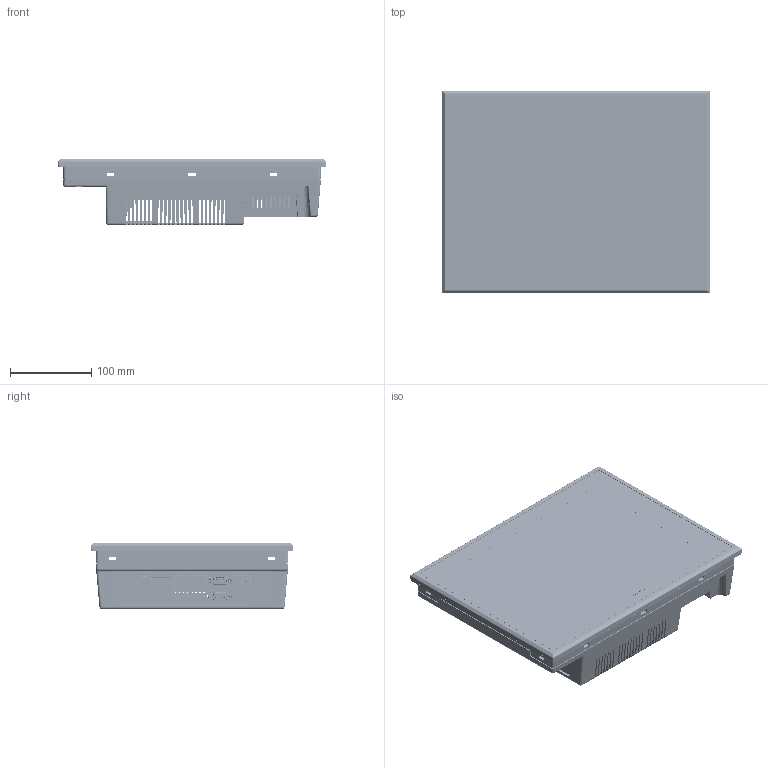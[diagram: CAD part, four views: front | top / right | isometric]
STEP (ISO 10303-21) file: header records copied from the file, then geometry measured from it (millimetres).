
FILE_DESCRIPTION (( 'STEP AP203' ), '1' );
FILE_NAME ('CM-eXT-12.STEP', '2025-02-07T06:55:59', ( '' ), ( '' ), 'SwSTEP 2.0', 'SolidWorks 2024', '' );
FILE_SCHEMA (( 'CONFIG_CONTROL_DESIGN' ));
Length unit declared in the file: millimetre
Products named in the file (18): CM-eXT12Front Bezel_BTC09066_AL12_A; LCD_BTC30053_G121XCE-L01; CM-eXT12Bracket IO_AL12_C_iMX6; CM-eXT12Assy_PCB_iMX6_Z2; Main Plate_BTC30469_A_0.188; CM-eXT12Bottom Case_BTC09061_12_A; CM-eXT12Frame Rubber_BTC09019_NT12; CM-eXT-12; CM-eXT12PJ-325C; CM-eXT12LCD_G121S1-L02; CM-eXT12Connector_15EDGRC_3.5_05P_BXP15081_degson_A; PSU_BTC03016; Touch_BXP05012_H3121A-NEWHW02-R_T12_A; CM-eXT12Connector_BXP15106_SD_FPS009-2405-0_YAMAICHI; CM-eXT12MUSB-05S-B-RA-2F; CM-eXT12SD card_A; CM-eXT12Connector_RU3_ZZ_0039; CM-eXT12AK_D_SUB_18P_4HD_RA_LFA_A
Assembly tree (18 placements, depth 3):
  CM-eXT-12
    CM-eXT12Front Bezel_BTC09066_AL12_A
    CM-eXT12Bottom Case_BTC09061_12_A
    CM-eXT12Frame Rubber_BTC09019_NT12
    CM-eXT12LCD_G121S1-L02
    CM-eXT12Bracket IO_AL12_C_iMX6
    Main Plate_BTC30469_A_0.188
    Touch_BXP05012_H3121A-NEWHW02-R_T12_A
    LCD_BTC30053_G121XCE-L01
    CM-eXT12Assy_PCB_iMX6_Z2
      CM-eXT12Connector_15EDGRC_3.5_05P_BXP15081_degson_A
      CM-eXT12Connector_BXP15106_SD_FPS009-2405-0_YAMAICHI
      CM-eXT12MUSB-05S-B-RA-2F
      CM-eXT12PJ-325C
      CM-eXT12SD card_A
      CM-eXT12AK_D_SUB_18P_4HD_RA_LFA_A
      CM-eXT12Connector_RU3_ZZ_0039  x2
    PSU_BTC03016
Bounding box: 329 x 249 x 81.4 mm (x, y, z)
Volume: 1044631.7 mm3; surface area: 1155968.4 mm2
Topology: 17 solids, 37 shells, 11231 faces, 32201 edges, 20622 vertices
Faces by surface type: plane 7405, cylinder 2569, cone 628, bspline 383, sphere 171, torus 75
Full cylindrical faces by diameter (mm): 1 x4
Entity records: 409190 total; most frequent: CARTESIAN_POINT 120993, ORIENTED_EDGE 63775, DIRECTION 53710, EDGE_CURVE 31978, LINE 22850, VECTOR 22850, VERTEX_POINT 20550, AXIS2_PLACEMENT_3D 15430
